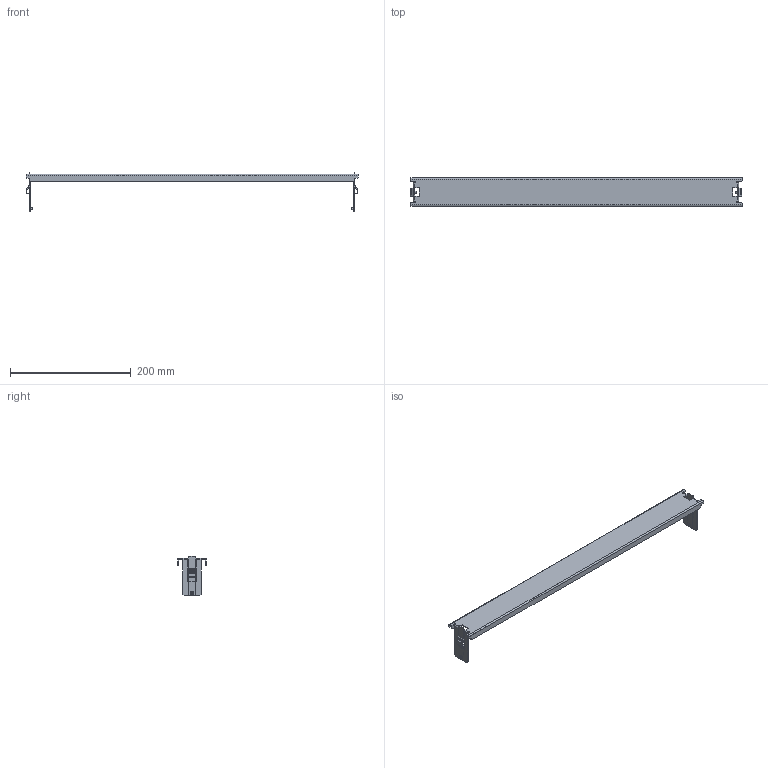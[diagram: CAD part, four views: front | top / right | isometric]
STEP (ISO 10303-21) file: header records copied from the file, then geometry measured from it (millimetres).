
FILE_DESCRIPTION (( 'STEP AP203' ), '1' );
FILE_NAME ('_152-5553 Rev1 20170221.STEP', '2017-02-21T18:41:39', ( '' ), ( '' ), 'SwSTEP 2.0', 'SolidWorks 2016', '' );
FILE_SCHEMA (( 'CONFIG_CONTROL_DESIGN' ));
Length unit declared in the file: inch
Products named in the file (4): 102-5554-003 Rev2_-1; _152-5553 Rev1 20170221; MS20426-AD4-3; 152-5553-001 Rev1_-1
Assembly tree (5 placements, depth 2):
  _152-5553 Rev1 20170221
    152-5553-001 Rev1_-1
    102-5554-003 Rev2_-1  x2
    MS20426-AD4-3  x2
Bounding box: 549.91 x 47.5 x 66.04 mm (x, y, z)
Volume: 55694.3 mm3; surface area: 82842.8 mm2
Topology: 5 solids, 5 shells, 250 faces, 576 edges, 332 vertices
Faces by surface type: plane 170, cylinder 68, cone 8, torus 4
Entity records: 5504 total; most frequent: DIRECTION 898, CARTESIAN_POINT 858, ORIENTED_EDGE 848, EDGE_CURVE 424, LINE 322, VECTOR 322, AXIS2_PLACEMENT_3D 288, VERTEX_POINT 248
